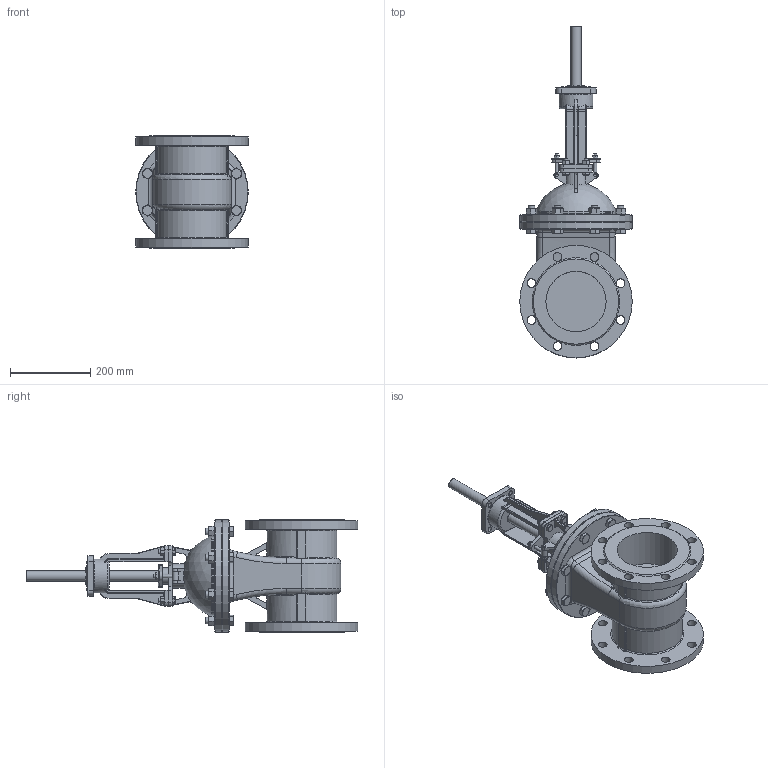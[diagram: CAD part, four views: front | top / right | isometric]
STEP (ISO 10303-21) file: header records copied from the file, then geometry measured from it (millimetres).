
FILE_DESCRIPTION(('STEP AP242'), '1');
FILE_NAME('GVWR2121M-2W-F-ÎÑÒ Çàäâèæêà êëèíîâàÿ ñ âûäâèæíûì øòîêîì Äó150 Ðó16', '', ('UNSPECIFIED'), ('UNSPECIFIED'), 'C3D Converter', 'C3D Toolkit', '');
FILE_SCHEMA(('AP242_MANAGED_MODEL_BASED_3D_ENGINEERING_MIM_LF { 1 0 10303 442 1 1 4 }'));
Length unit declared in the file: millimetre
Products named in the file (1): GVWR2121M-2W-F-ОСТ
Bounding box: 280 x 826 x 280 mm (x, y, z)
Volume: 12498192.9 mm3; surface area: 926439 mm2
Topology: 1 solids, 1 shells, 1115 faces, 2720 edges, 1645 vertices
Faces by surface type: plane 463, cone 260, cylinder 231, bspline 79, torus 73, sphere 5, revolution 4
Full cylindrical faces by diameter (mm): 7 x4, 8 x4, 10 x8, 12 x4, 15 x2, 16 x20, 22 x16, 24 x4, 25 x2, 30 x1, 32 x1, 40 x1, 50 x1, 52 x1, 70 x1, 84.405 x1, 150 x2, 200 x2, 280 x4
Entity records: 63481 total; most frequent: CARTESIAN_POINT 29902, ORIENTED_EDGE 5190, DIRECTION 4766, EDGE_CURVE 2595, AXIS2_PLACEMENT_3D 1941, VERTEX_POINT 1637, EDGE_LOOP 1360, FACE_BOUND 1222
